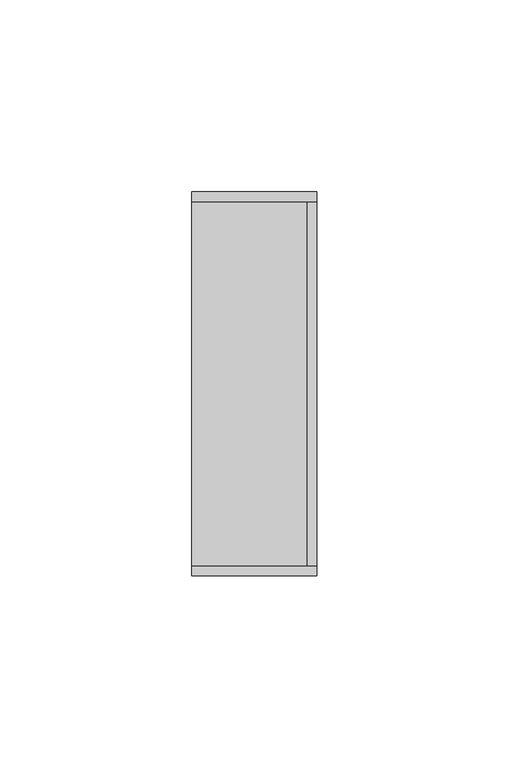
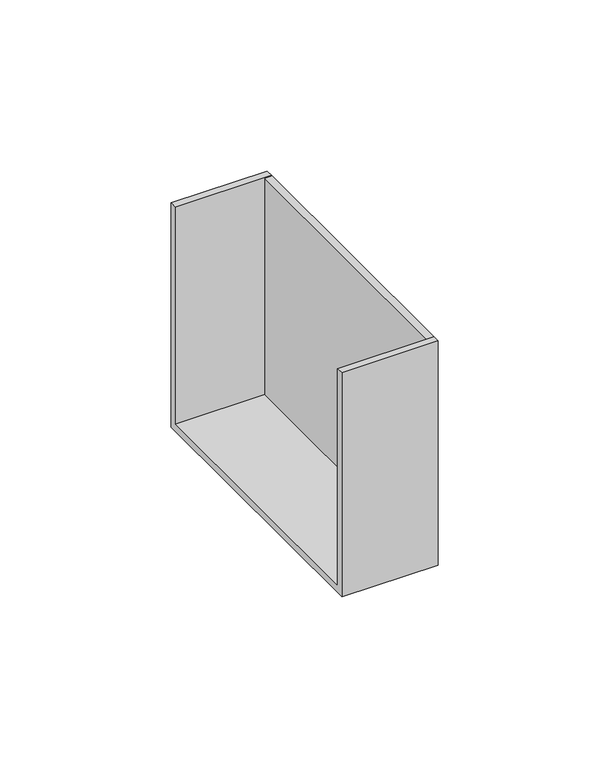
"""IFC4 building model written with IfcOpenShell, lengths in millimetres: cable carrier fitting geometry, КНС_ЗаглушкаТорцеваяLAN_ILC_DKC : Заглушка торцевая LAN_DKC."""

from ifc_helpers import new_model, si_unit, frame, origin, place, context, project, spatial, polyline, outline, extrude, source, transform, mapped, element, save


def cable_carrier_fitting_0575ba35(model_context):
    return source(origin(), model_context, "Body", "SweptSolid", [
        extrude(outline(polyline([(50.0, -40.0), (-50.0, -40.0), (-50.0, 40.0), (-47.5, 40.0), (-47.5, -37.5), (47.5, -37.5), (47.5, 40.0), (50.0, 40.0), (50.0, -40.0)])), frame((-32.5, 0.0, 0.0), z_axis=(1.0, 0.0, 0.0), x_axis=(0.0, 1.0, 0.0)), (0.0, 0.0, 1.0), 32.5),
        extrude(outline(polyline([(0.0, 47.5), (0.0, -47.5), (-2.5, -47.5), (-2.5, 47.5), (0.0, 47.5)])), frame((0.0, 0.0, -40.0), z_axis=(0.0, 0.0, 1.0), x_axis=(1.0, 0.0, 0.0)), (0.0, 0.0, 1.0), 80.0),
    ])


if __name__ == "__main__":
    model = new_model("IFC4")
    model_context = context("Model", 3, world=origin())
    ifc_project = project(units=[si_unit("LENGTHUNIT", "METRE", prefix="MILLI")], contexts=[model_context])
    site = spatial("IfcSite", under=ifc_project)
    building = spatial("IfcBuilding", under=site)
    placement = place(None, origin())
    cable_carrier_fitting_shape = cable_carrier_fitting_0575ba35(model_context)
    element("IfcCableCarrierFitting", 1, ObjectType="КНС_ЗаглушкаТорцеваяLAN_ILC_DKC : Заглушка торцевая LAN_DKC", at=placement, inside=building, context=model_context, shape_type="MappedRepresentation", body=[
        mapped(cable_carrier_fitting_shape, transform((0.0, 0.0, 0.0), x_axis=(1.0, 0.0, 0.0), y_axis=(0.0, 1.0, 0.0), z_axis=(0.0, 0.0, 1.0))),
    ])
    save(model, "model.ifc")
